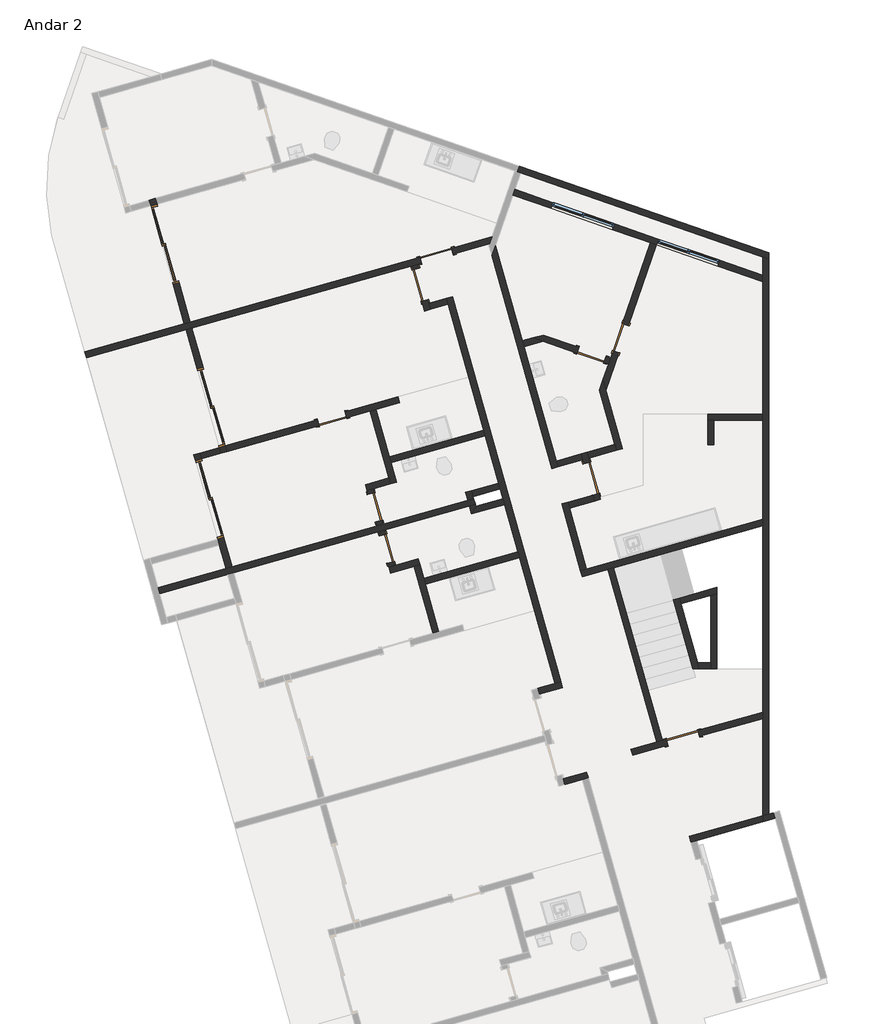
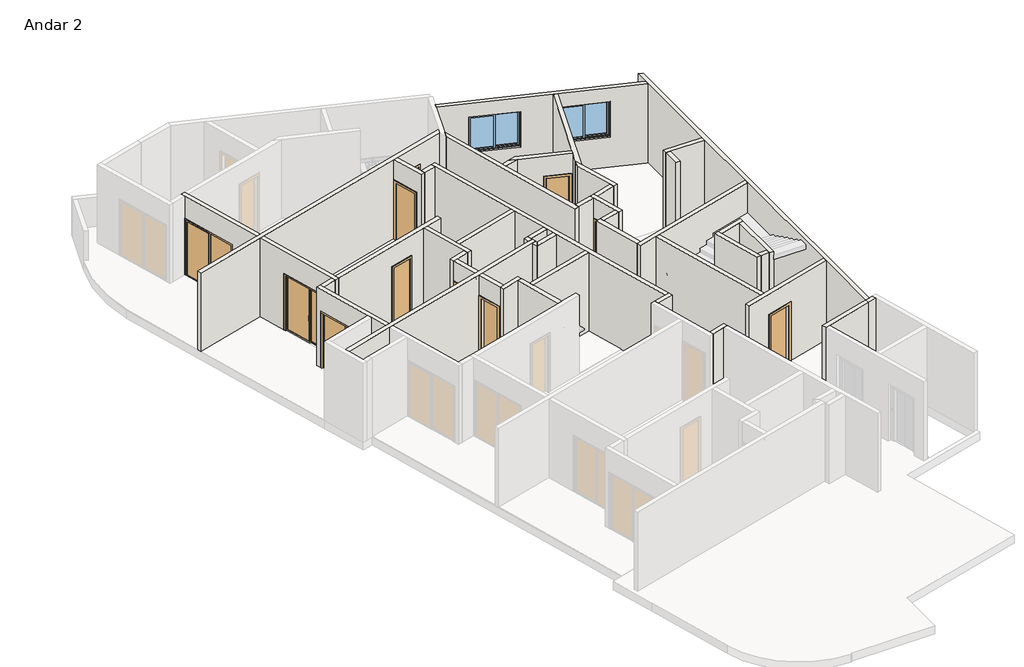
# One storey, part 2 of 3: 48 walls, 12 doors, 2 windows.
"""IFC4 building model written with IfcOpenShell, lengths in millimetres."""

from ifc_helpers import new_model, si_unit, frame, origin, place, context, project, spatial, polyline, outline, extrude, faceted_brep, transform, mapped, element, save
from components import p2_80cm_9d4be4ef, p2_80cm_083652d6, p3_70cm_ef4d15e3, p3_70cm_0a698c7c, p4_correr_200cm_eaaa0877, jx_160cm_e9e36a0c

model = new_model("IFC4")

# Units and contexts
model_context = context("Model", 3, world=origin())
ifc_project = project(units=[si_unit("LENGTHUNIT", "METRE", prefix="MILLI")], contexts=[model_context])

# Site, building, storey
site = spatial("IfcSite", under=ifc_project)
building = spatial("IfcBuilding", under=site)
storey = spatial("IfcBuildingStorey", under=building, Name="Andar 2", Elevation=56550.0)

# Doors
placement = place(None, origin())
p2_80cm_shape = p2_80cm_9d4be4ef(model_context)
element("IfcDoor", 1, ObjectType="M_Folha única1 : P2 - 80CM", at=placement, inside=storey, context=model_context, shape_type="MappedRepresentation", body=[
    mapped(p2_80cm_shape, transform((-83145.1128896, 30941.0402894, 56550.0), x_axis=(-0.9623628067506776, -0.2717679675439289, 0.0), y_axis=(0.2717679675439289, -0.9623628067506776, 0.0), z_axis=(0.0, 0.0, 1.0))),
])
element("IfcDoor", 2, ObjectType="M_Folha única1 : P2 - 80CM", at=placement, inside=storey, context=model_context, shape_type="MappedRepresentation", body=[
    mapped(p2_80cm_shape, transform((-79349.4097406, 25479.1041247, 56550.0), x_axis=(-0.27176796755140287, 0.962362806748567, 0.0), y_axis=(-0.962362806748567, -0.27176796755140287, 0.0), z_axis=(0.0, 0.0, 1.0))),
])
p2_80cm_2_shape = p2_80cm_083652d6(model_context)
element("IfcDoor", 3, ObjectType="M_Folha única1 : P2 - 80CM", at=placement, inside=storey, context=model_context, shape_type="MappedRepresentation", body=[
    mapped(p2_80cm_2_shape, transform((-83542.2049222, 30231.4150941, 56550.0), x_axis=(-0.2717679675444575, 0.9623628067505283, 0.0), y_axis=(-0.9623628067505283, -0.2717679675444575, 0.0), z_axis=(0.0, 0.0, 1.0))),
])
p3_70cm_shape = p3_70cm_ef4d15e3(model_context)
element("IfcDoor", 4, ObjectType="M_Folha única1 : P3 - 70CM", at=placement, inside=storey, context=model_context, shape_type="MappedRepresentation", body=[
    mapped(p3_70cm_shape, transform((-84650.97864, 24774.7108835, 56550.0), x_axis=(0.2717679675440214, -0.9623628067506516, 0.0), y_axis=(0.9623628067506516, 0.2717679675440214, 0.0), z_axis=(0.0, 0.0, 1.0))),
])
p3_70cm_2_shape = p3_70cm_0a698c7c(model_context)
element("IfcDoor", 5, ObjectType="M_Folha única1 : P3 - 70CM", at=placement, inside=storey, context=model_context, shape_type="MappedRepresentation", body=[
    mapped(p3_70cm_2_shape, transform((-84365.6222741, 23764.2299364, 56550.0), x_axis=(-0.2717679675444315, 0.9623628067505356, 0.0), y_axis=(-0.9623628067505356, -0.2717679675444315, 0.0), z_axis=(0.0, 0.0, 1.0))),
])
element("IfcDoor", 6, ObjectType="M_Folha única1 : P3 - 70CM", at=placement, inside=storey, context=model_context, shape_type="MappedRepresentation", body=[
    mapped(p3_70cm_2_shape, transform((-85705.4317558, 26944.8211633, 56550.0), x_axis=(0.9623628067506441, 0.2717679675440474, 0.0), y_axis=(-0.2717679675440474, 0.9623628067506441, 0.0), z_axis=(0.0, 0.0, 1.0))),
])
element("IfcDoor", 7, ObjectType="M_Folha única1 : P3 - 70CM", at=placement, inside=storey, context=model_context, shape_type="MappedRepresentation", body=[
    mapped(p3_70cm_2_shape, transform((-79346.1223746, 28509.6973665, 56550.0), x_axis=(0.9449109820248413, -0.32732741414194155, 0.0), y_axis=(0.32732741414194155, 0.9449109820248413, 0.0), z_axis=(0.0, 0.0, 1.0))),
])
element("IfcDoor", 8, ObjectType="M_Folha única1 : P3 - 70CM", at=placement, inside=storey, context=model_context, shape_type="MappedRepresentation", body=[
    mapped(p3_70cm_2_shape, transform((-78626.5662556, 28921.8732895, 56550.0), x_axis=(-0.32732741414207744, -0.9449109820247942, 0.0), y_axis=(0.9449109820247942, -0.32732741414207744, 0.0), z_axis=(0.0, 0.0, 1.0))),
])
p4_correr_200cm_shape = p4_correr_200cm_eaaa0877(model_context)
element("IfcDoor", 9, ObjectType="Porta de correr dupla envidraçada sem revestimento : P4 - CORRER - 200CM", at=placement, inside=storey, context=model_context, shape_type="MappedRepresentation", body=[
    mapped(p4_correr_200cm_shape, transform((-89799.7974026, 31217.9316171, 56550.0), x_axis=(0.27176796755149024, -0.9623628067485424, 0.0), y_axis=(0.9623628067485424, 0.27176796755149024, 0.0), z_axis=(0.0, 0.0, 1.0))),
])
element("IfcDoor", 10, ObjectType="Porta de correr dupla envidraçada sem revestimento : P4 - CORRER - 200CM", at=placement, inside=storey, context=model_context, shape_type="MappedRepresentation", body=[
    mapped(p4_correr_200cm_shape, transform((-88671.9603372, 27224.125969, 56550.0), x_axis=(-0.27176796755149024, 0.9623628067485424, 0.0), y_axis=(-0.9623628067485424, -0.27176796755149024, 0.0), z_axis=(0.0, 0.0, 1.0))),
])
element("IfcDoor", 11, ObjectType="Porta de correr dupla envidraçada sem revestimento : P4 - CORRER - 200CM", at=placement, inside=storey, context=model_context, shape_type="MappedRepresentation", body=[
    mapped(p4_correr_200cm_shape, transform((-88709.3738038, 24979.4758572, 56550.0), x_axis=(-0.2717679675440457, 0.9623628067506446, 0.0), y_axis=(-0.9623628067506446, -0.2717679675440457, 0.0), z_axis=(0.0, 0.0, 1.0))),
])
element("IfcDoor", 12, ObjectType="M_Folha única1 : PCF1 - 80CM", at=placement, inside=storey, context=model_context, shape_type="MappedRepresentation", body=[
    mapped(p2_80cm_shape, transform((-77103.5502958, 19127.1105693, 56550.0), x_axis=(-0.9623628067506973, -0.2717679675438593, 0.0), y_axis=(0.2717679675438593, -0.9623628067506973, 0.0), z_axis=(0.0, 0.0, 1.0))),
])

# Walls
element("IfcWall", 13, ObjectType="Básica .15 -  Interna", at=placement, inside=storey, context=model_context, shape_type="Brep", body=[
    faceted_brep([(-82901.0804648, 29892.9118737, 56550.0), (-82860.3152697, 29748.5574527, 56550.0), (-81990.6577736, 26668.9964711, 56550.0), (-81949.8925784, 26524.6420501, 56550.0), (-81623.7710174, 25369.806682, 56550.0), (-81583.0058223, 25225.452261, 56550.0), (-81515.0638304, 24984.8615593, 56550.0), (-81474.2986352, 24840.5071383, 56550.0), (-81148.1770742, 23685.6717702, 56550.0), (-81107.4118791, 23541.3173492, 56550.0), (-80237.7543829, 20461.7563676, 56550.0), (-80237.7543829, 20461.7563676, 59450.0), (-81107.4118791, 23541.3173492, 59450.0), (-81148.1770742, 23685.6717702, 59450.0), (-81474.2986352, 24840.5071383, 59450.0), (-81515.0638304, 24984.8615593, 59450.0), (-81583.0058223, 25225.452261, 59450.0), (-81623.7710174, 25369.806682, 59450.0), (-81949.8925784, 26524.6420501, 59450.0), (-81990.6577736, 26668.9964711, 59450.0), (-82860.3152697, 29748.5574527, 59450.0), (-82901.0804648, 29892.9118737, 59450.0), (-82756.7260438, 29933.6770689, 56550.0), (-82756.7260438, 29933.6770689, 59450.0), (-80093.3999619, 20502.5215627, 59450.0), (-80093.3999619, 20502.5215627, 56550.0)], [[[0, 1, 2, 3, 4, 5, 6, 7, 8, 9, 10, 11, 12, 13, 14, 15, 16, 17, 18, 19, 20, 21]], [[22, 23, 24, 25]], [[10, 9, 8, 7, 6, 5, 4, 3, 2, 1, 0, 22, 25]], [[21, 20, 19, 18, 17, 16, 15, 14, 13, 12, 11, 24, 23]], [[0, 21, 23, 22]], [[11, 10, 25, 24]]]),
])
element("IfcWall", 14, ObjectType="Básica .15 -  Interna", at=placement, inside=storey, context=model_context, shape_type="Brep", body=[
    faceted_brep([(-83750.2661164, 30692.2138999, 56550.0), (-83723.0893197, 30595.9776193, 56550.0), (-83723.0893197, 30595.9776193, 58650.0), (-83505.6749457, 29826.0873739, 58650.0), (-83505.6749457, 29826.0873739, 56550.0), (-83437.7329538, 29585.4966722, 56550.0), (-83437.7329538, 29585.4966722, 59450.0), (-83750.2661164, 30692.2138999, 59450.0), (-83578.7348987, 30636.7428144, 58650.0), (-83578.7348987, 30636.7428144, 56550.0), (-83605.9116954, 30732.9790951, 56550.0), (-83605.9116954, 30732.9790951, 59450.0), (-83334.1437279, 29770.6162883, 59450.0), (-83293.3785328, 29626.2618673, 59450.0), (-83293.3785328, 29626.2618673, 56550.0), (-83334.1437279, 29770.6162883, 56550.0), (-83361.3205246, 29866.852569, 56550.0), (-83361.3205246, 29866.852569, 58650.0)], [[[0, 1, 2, 3, 4, 5, 6, 7]], [[8, 9, 10, 11, 12, 13, 14, 15, 16, 17]], [[10, 9, 1, 0]], [[16, 15, 14, 5, 4]], [[7, 6, 13, 12, 11]], [[6, 5, 14, 13]], [[0, 7, 11, 10]], [[2, 1, 9, 8]], [[3, 2, 8, 17]], [[4, 3, 17, 16]]]),
])
element("IfcWall", 15, ObjectType="Básica .15 -  Interna", at=placement, inside=storey, context=model_context, shape_type="SweptSolid", body=[
    extrude(outline(polyline([(-82860.3152697, 29748.5574527), (-83293.3785328, 29626.2618673), (-83334.1437279, 29770.6162883), (-82901.0804648, 29892.9118737), (-82860.3152697, 29748.5574527)])), frame((0.0, 0.0, 56550.0), z_axis=(0.0, 0.0, 1.0), x_axis=(1.0, 0.0, 0.0)), (0.0, 0.0, 1.0), 2900.0),
])
element("IfcWall", 16, ObjectType="Básica .15 -  Interna", at=placement, inside=storey, context=model_context, shape_type="Brep", body=[
    faceted_brep([(-80093.3999619, 20502.5215627, 56550.0), (-80237.7543829, 20461.7563676, 56550.0), (-80670.817646, 20339.4607822, 56550.0), (-80670.817646, 20339.4607822, 59450.0), (-80237.7543829, 20461.7563676, 59450.0), (-80093.3999619, 20502.5215627, 59450.0), (-80052.6347668, 20358.1671417, 56550.0), (-80052.6347668, 20358.1671417, 59450.0), (-80630.0524508, 20195.1063612, 59450.0), (-80630.0524508, 20195.1063612, 56550.0)], [[[0, 1, 2, 3, 4, 5]], [[6, 7, 8, 9]], [[2, 1, 0, 6, 9]], [[5, 4, 3, 8, 7]], [[3, 2, 9, 8]], [[0, 5, 7, 6]]]),
])
element("IfcWall", 17, ObjectType="Básica .15 -  Interna", at=placement, inside=storey, context=model_context, shape_type="Brep", body=[
    faceted_brep([(-80004.9861255, 17981.6719056, 56550.0), (-79571.9228624, 18103.967491, 56550.0), (-79427.5684414, 18144.7326862, 56550.0), (-79427.5684414, 18144.7326862, 59450.0), (-79571.9228624, 18103.967491, 59450.0), (-80004.9861255, 17981.6719056, 59450.0), (-80045.7513206, 18126.0263266, 56550.0), (-80045.7513206, 18126.0263266, 59450.0), (-79468.3336366, 18289.0871072, 59450.0), (-79468.3336366, 18289.0871072, 56550.0)], [[[0, 1, 2, 3, 4, 5]], [[6, 7, 8, 9]], [[2, 1, 0, 6, 9]], [[5, 4, 3, 8, 7]], [[3, 2, 9, 8]], [[0, 5, 7, 6]]]),
])
element("IfcWall", 18, ObjectType="Básica .15 -  Interna", at=placement, inside=storey, context=model_context, shape_type="Brep", body=[
    faceted_brep([(-88305.9570711, 23274.9583478, 59450.0), (-88469.0178517, 23852.3760319, 59450.0), (-88509.7830468, 23996.7304529, 59450.0), (-89094.084177, 26065.8104874, 59450.0), (-89094.084177, 26065.8104874, 56550.0), (-89053.3189819, 25921.4560664, 56550.0), (-89053.3189819, 25921.4560664, 58650.0), (-88509.7830468, 23996.7304529, 58650.0), (-88509.7830468, 23996.7304529, 56550.0), (-88469.0178517, 23852.3760319, 56550.0), (-88305.9570711, 23274.9583478, 56550.0), (-88949.729756, 26106.5756825, 59450.0), (-88908.9645609, 25962.2212615, 59450.0), (-88161.6026501, 23315.723543, 59450.0), (-88161.6026501, 23315.723543, 56550.0), (-88365.4286258, 24037.495648, 56550.0), (-88365.4286258, 24037.495648, 58650.0), (-88908.9645609, 25962.2212615, 58650.0), (-88908.9645609, 25962.2212615, 56550.0), (-88949.729756, 26106.5756825, 56550.0)], [[[0, 1, 2, 3, 4, 5, 6, 7, 8, 9, 10]], [[11, 12, 13, 14, 15, 16, 17, 18, 19]], [[4, 19, 18, 5]], [[14, 10, 9, 8, 15]], [[3, 2, 1, 0, 13, 12, 11]], [[4, 3, 11, 19]], [[0, 10, 14, 13]], [[17, 6, 5, 18]], [[6, 17, 16, 7]], [[7, 16, 15, 8]]]),
])
element("IfcWall", 19, ObjectType="Básica .15 -  Interna", at=placement, inside=storey, context=model_context, shape_type="Brep", body=[
    faceted_brep([(-89143.3190618, 29169.2341801, 59450.0), (-88328.0151592, 26282.1457598, 59450.0), (-88287.249964, 26137.7913388, 59450.0), (-88287.249964, 26137.7913388, 56550.0), (-88328.0151592, 26282.1457598, 56550.0), (-88328.0151592, 26282.1457598, 58650.0), (-88871.5510943, 28206.8713733, 58650.0), (-88871.5510943, 28206.8713733, 56550.0), (-89143.3190618, 29169.2341801, 56550.0), (-88431.604385, 26097.0261437, 59450.0), (-88472.3695802, 26241.3805647, 59450.0), (-89287.6734828, 29128.468985, 59450.0), (-89287.6734828, 29128.468985, 56550.0), (-89015.9055153, 28166.1061782, 56550.0), (-89015.9055153, 28166.1061782, 58650.0), (-88472.3695802, 26241.3805647, 58650.0), (-88472.3695802, 26241.3805647, 56550.0), (-88431.604385, 26097.0261437, 56550.0)], [[[0, 1, 2, 3, 4, 5, 6, 7, 8]], [[9, 10, 11, 12, 13, 14, 15, 16, 17]], [[3, 17, 16, 4]], [[12, 8, 7, 13]], [[2, 1, 0, 11, 10, 9]], [[3, 2, 9, 17]], [[0, 8, 12, 11]], [[6, 14, 13, 7]], [[14, 6, 5, 15]], [[15, 5, 4, 16]]]),
])
element("IfcWall", 20, ObjectType="Básica .15 -  Interna", at=placement, inside=storey, context=model_context, shape_type="Brep", body=[
    faceted_brep([(-76904.7538909, 16570.3643175, 56550.0), (-76760.3994699, 16611.1295126, 56550.0), (-75147.8282189, 17066.5141226, 56550.0), (-75147.8282189, 17066.5141226, 59450.0), (-76760.3994699, 16611.1295126, 59450.0), (-76904.7538909, 16570.3643175, 59450.0), (-76945.5190861, 16714.7187385, 56550.0), (-76945.5190861, 16714.7187385, 59450.0), (-75147.8282189, 17222.3804954, 59450.0), (-75147.8282189, 17222.3804954, 56550.0)], [[[0, 1, 2, 3, 4, 5]], [[6, 7, 8, 9]], [[2, 1, 0, 6, 9]], [[5, 4, 3, 8, 7]], [[0, 5, 7, 6]], [[3, 2, 9, 8]]]),
])
element("IfcWall", 21, ObjectType="Básica .15 -  Interna", at=placement, inside=storey, context=model_context, shape_type="Brep", body=[
    faceted_brep([(-79570.9048554, 23078.5590693, 56550.0), (-78948.2127609, 23254.4051886, 56550.0), (-78803.8582924, 23295.1703972, 56550.0), (-75147.8282189, 24327.6207947, 56550.0), (-75147.8282189, 24327.6207947, 59450.0), (-78803.8582924, 23295.1703972, 59450.0), (-78948.2127609, 23254.4051886, 59450.0), (-79570.9048554, 23078.5590693, 59450.0), (-79611.6700506, 23222.9134903, 56550.0), (-79611.6700506, 23222.9134903, 59450.0), (-79467.3156296, 23263.6786855, 59450.0), (-75147.8282189, 24483.4871675, 59450.0), (-75147.8282189, 24483.4871675, 56550.0), (-79467.3156296, 23263.6786855, 56550.0)], [[[0, 1, 2, 3, 4, 5, 6, 7]], [[8, 9, 10, 11, 12, 13]], [[3, 2, 1, 0, 8, 13, 12]], [[7, 6, 5, 4, 11, 10, 9]], [[0, 7, 9, 8]], [[4, 3, 12, 11]]]),
])
element("IfcWall", 22, ObjectType="Básica .15 -  Interna", at=placement, inside=storey, context=model_context, shape_type="SweptSolid", body=[
    extrude(outline(polyline([(-77749.4687652, 19022.6385875), (-78948.2127609, 23254.4051886), (-78803.8582924, 23295.1703972), (-77605.1142967, 19063.4037961), (-77749.4687652, 19022.6385875)])), frame((0.0, 0.0, 56550.0), z_axis=(0.0, 0.0, 1.0), x_axis=(1.0, 0.0, 0.0)), (0.0, 0.0, 1.0), 2900.0),
])
element("IfcWall", 23, ObjectType="Básica .15 -  Interna", at=placement, inside=storey, context=model_context, shape_type="Brep", body=[
    faceted_brep([(-77508.878016, 19090.5805928, 58650.0), (-77508.878016, 19090.5805928, 56550.0), (-77605.1142967, 19063.4037961, 56550.0), (-77749.4687652, 19022.6385875, 56550.0), (-78375.5945972, 18845.8227925, 56550.0), (-78375.5945972, 18845.8227925, 59450.0), (-77749.4687652, 19022.6385875, 59450.0), (-77605.1142967, 19063.4037961, 59450.0), (-75147.8282189, 19757.3329862, 59450.0), (-75147.8282189, 19757.3329862, 56550.0), (-76738.9877706, 19307.9949669, 56550.0), (-76738.9877706, 19307.9949669, 58650.0), (-78334.829402, 18701.4683715, 56550.0), (-77468.1128209, 18946.2261718, 56550.0), (-77468.1128209, 18946.2261718, 58650.0), (-76698.2225755, 19163.6405459, 58650.0), (-76698.2225755, 19163.6405459, 56550.0), (-75147.8282189, 19601.4666134, 56550.0), (-75147.8282189, 19601.4666134, 59450.0), (-78334.829402, 18701.4683715, 59450.0)], [[[0, 1, 2, 3, 4, 5, 6, 7, 8, 9, 10, 11]], [[12, 13, 14, 15, 16, 17, 18, 19]], [[10, 9, 17, 16]], [[4, 3, 2, 1, 13, 12]], [[5, 4, 12, 19]], [[8, 7, 6, 5, 19, 18]], [[14, 13, 1, 0]], [[15, 14, 0, 11]], [[16, 15, 11, 10]], [[9, 8, 18, 17]]]),
])
element("IfcWall", 24, ObjectType="Básica .15 - Externa", at=placement, inside=storey, context=model_context, shape_type="Brep", body=[
    faceted_brep([(-75147.8282189, 30909.9128092, 59450.0), (-75147.8282189, 30909.9128092, 56550.0), (-75147.8282189, 30461.6117638, 56550.0), (-75147.8282189, 30302.8666514, 56550.0), (-75147.8282189, 27060.8243598, 56550.0), (-75147.8282189, 26910.8243598, 56550.0), (-75147.8282189, 24483.4871675, 56550.0), (-75147.8282189, 24327.6207947, 56550.0), (-75147.8282189, 19757.3329862, 56550.0), (-75147.8282189, 19601.4666134, 56550.0), (-75147.8282189, 18677.5140353, 56550.0), (-75147.8282189, 17222.3804954, 56550.0), (-75147.8282189, 17222.3804954, 59450.0), (-75147.8282189, 19601.4666134, 59450.0), (-75147.8282189, 19757.3329862, 59450.0), (-75147.8282189, 24327.6207947, 59450.0), (-75147.8282189, 24483.4871675, 59450.0), (-75147.8282189, 26910.8243598, 59450.0), (-75147.8282189, 27060.8243598, 59450.0), (-75147.8282189, 30302.8666514, 59450.0), (-75147.8282189, 30461.6117638, 59450.0), (-74997.8282189, 30857.9511821, 56550.0), (-74997.8282189, 30857.9511821, 57850.0), (-74997.8282189, 30857.9511821, 59150.0), (-74997.8282189, 30857.9511821, 59450.0), (-74997.8282189, 17264.7399828, 59450.0), (-74997.8282189, 17264.7399828, 56550.0), (-74997.8282189, 18677.5140353, 56550.0)], [[[0, 1, 2, 3, 4, 5, 6, 7, 8, 9, 10, 11, 12, 13, 14, 15, 16, 17, 18, 19, 20]], [[21, 22, 23, 24, 25, 26, 27]], [[11, 10, 9, 8, 7, 6, 5, 4, 3, 2, 1, 21, 27, 26]], [[0, 20, 19, 18, 17, 16, 15, 14, 13, 12, 25, 24]], [[12, 11, 26, 25]], [[0, 24, 23, 22, 21, 1]]]),
])
element("IfcWall", 25, ObjectType="Básica .15 -  Interna", at=placement, inside=storey, context=model_context, shape_type="Brep", body=[
    faceted_brep([(-80073.6755954, 24858.9302618, 56550.0), (-79611.6700506, 23222.9134903, 56550.0), (-79611.6700506, 23222.9134903, 59450.0), (-80073.6755954, 24858.9302618, 59450.0), (-79929.3211744, 24899.695457, 56550.0), (-79929.3211744, 24899.695457, 59450.0), (-79888.5559793, 24755.3410359, 59450.0), (-79467.3156296, 23263.6786855, 59450.0), (-79467.3156296, 23263.6786855, 56550.0), (-79888.5559793, 24755.3410359, 56550.0)], [[[0, 1, 2, 3]], [[4, 5, 6, 7, 8, 9]], [[1, 0, 4, 9, 8]], [[3, 2, 7, 6, 5]], [[0, 3, 5, 4]], [[2, 1, 8, 7]]]),
])
element("IfcWall", 26, ObjectType="Básica .15 -  Interna", at=placement, inside=storey, context=model_context, shape_type="Brep", body=[
    faceted_brep([(-79888.5559793, 24755.3410359, 56550.0), (-79272.1145689, 24929.4219834, 56550.0), (-79272.1145689, 24929.4219834, 59450.0), (-79888.5559793, 24755.3410359, 59450.0), (-79929.3211744, 24899.695457, 56550.0), (-79929.3211744, 24899.695457, 59450.0), (-79312.8797641, 25073.7764044, 59450.0), (-79312.8797641, 25073.7764044, 58650.0), (-79312.8797641, 25073.7764044, 56550.0)], [[[0, 1, 2, 3]], [[4, 5, 6, 7, 8]], [[1, 0, 4, 8]], [[3, 2, 6, 5]], [[0, 3, 5, 4]], [[2, 1, 8, 7, 6]]]),
])
element("IfcWall", 27, ObjectType="Básica .15 -  Interna", at=placement, inside=storey, context=model_context, shape_type="Brep", body=[
    faceted_brep([(-79598.23613, 26084.2573515, 56550.0), (-79557.4709349, 25939.9029305, 56550.0), (-79530.2941381, 25843.6666498, 56550.0), (-79530.2941381, 25843.6666498, 58650.0), (-79312.8797641, 25073.7764044, 58650.0), (-79312.8797641, 25073.7764044, 56550.0), (-79272.1145689, 24929.4219834, 56550.0), (-79272.1145689, 24929.4219834, 59450.0), (-79312.8797641, 25073.7764044, 59450.0), (-79557.4709349, 25939.9029305, 59450.0), (-79598.23613, 26084.2573515, 59450.0), (-79385.9397171, 25884.4318449, 58650.0), (-79385.9397171, 25884.4318449, 56550.0), (-79413.1165138, 25980.6681256, 56550.0), (-79453.881709, 26125.0225466, 56550.0), (-79453.881709, 26125.0225466, 59450.0), (-79413.1165138, 25980.6681256, 59450.0), (-79127.7601479, 24970.1871785, 59450.0), (-79127.7601479, 24970.1871785, 56550.0), (-79168.5253431, 25114.5415995, 56550.0), (-79168.5253431, 25114.5415995, 58650.0)], [[[0, 1, 2, 3, 4, 5, 6, 7, 8, 9, 10]], [[11, 12, 13, 14, 15, 16, 17, 18, 19, 20]], [[19, 18, 6, 5]], [[14, 13, 12, 2, 1, 0]], [[10, 9, 8, 7, 17, 16, 15]], [[7, 6, 18, 17]], [[0, 10, 15, 14]], [[3, 2, 12, 11]], [[4, 3, 11, 20]], [[5, 4, 20, 19]]]),
])
element("IfcWall", 28, ObjectType="Básica .15 -  Interna", at=placement, inside=storey, context=model_context, shape_type="Brep", body=[
    faceted_brep([(-81789.2550074, 30934.0017027, 56550.0), (-80318.2667662, 25725.0567879, 56550.0), (-80318.2667662, 25725.0567879, 59450.0), (-81789.2550074, 30934.0017027, 59450.0), (-81703.3880158, 31181.8778654, 56550.0), (-81703.3880158, 31181.8778654, 59450.0), (-81045.1503443, 28850.9797144, 59450.0), (-81004.3851492, 28706.6252933, 59450.0), (-80214.6775403, 25910.176404, 59450.0), (-80173.9123452, 25765.821983, 59450.0), (-80173.9123452, 25765.821983, 56550.0), (-80214.6775403, 25910.176404, 56550.0), (-81004.3851492, 28706.6252933, 56550.0), (-81045.1503443, 28850.9797144, 56550.0)], [[[0, 1, 2, 3]], [[4, 5, 6, 7, 8, 9, 10, 11, 12, 13]], [[1, 0, 4, 13, 12, 11, 10]], [[3, 2, 9, 8, 7, 6, 5]], [[0, 3, 5, 4]], [[2, 1, 10, 9]]]),
])
element("IfcWall", 29, ObjectType="Básica .15 -  Interna", at=placement, inside=storey, context=model_context, shape_type="Brep", body=[
    faceted_brep([(-88908.9645609, 25962.2212615, 56550.0), (-88431.604385, 26097.0261437, 56550.0), (-88431.604385, 26097.0261437, 59450.0), (-88908.9645609, 25962.2212615, 59450.0), (-88908.9645609, 25962.2212615, 58650.0), (-88949.729756, 26106.5756825, 56550.0), (-88949.729756, 26106.5756825, 59450.0), (-88472.3695802, 26241.3805647, 59450.0), (-88472.3695802, 26241.3805647, 56550.0)], [[[0, 1, 2, 3, 4]], [[5, 6, 7, 8]], [[1, 0, 5, 8]], [[3, 2, 7, 6]], [[0, 4, 3, 6, 5]], [[2, 1, 8, 7]]]),
])
element("IfcWall", 30, ObjectType="Básica .15 -  Interna", at=placement, inside=storey, context=model_context, shape_type="SweptSolid", body=[
    extrude(outline(polyline([(-79557.4709349, 25939.9029305), (-80173.9123452, 25765.821983), (-80214.6775403, 25910.176404), (-79598.23613, 26084.2573515), (-79557.4709349, 25939.9029305)])), frame((0.0, 0.0, 56550.0), z_axis=(0.0, 0.0, 1.0), x_axis=(1.0, 0.0, 0.0)), (0.0, 0.0, 1.0), 2900.0),
])
element("IfcWall", 31, ObjectType="Básica .15 -  Interna", at=placement, inside=storey, context=model_context, shape_type="Brep", body=[
    faceted_brep([(-91725.2428613, 28440.1077234, 56550.0), (-89287.6734828, 29128.468985, 56550.0), (-89143.3190618, 29169.2341801, 56550.0), (-83750.2661164, 30692.2138999, 56550.0), (-83605.9116954, 30732.9790951, 56550.0), (-83509.6754148, 30760.1558918, 56550.0), (-83509.6754148, 30760.1558918, 58650.0), (-82739.7851694, 30977.5702659, 58650.0), (-82739.7851694, 30977.5702659, 56550.0), (-81845.4155775, 31230.1371819, 56550.0), (-81845.4155775, 31230.1371819, 59450.0), (-83605.9116954, 30732.9790951, 59450.0), (-83750.2661164, 30692.2138999, 59450.0), (-89143.3190618, 29169.2341801, 59450.0), (-89287.6734828, 29128.468985, 59450.0), (-91725.2428613, 28440.1077234, 59450.0), (-83550.4406099, 30904.5103128, 58650.0), (-83550.4406099, 30904.5103128, 56550.0), (-89184.084257, 29313.5886011, 56550.0), (-89328.438678, 29272.823406, 56550.0), (-91766.0080564, 28584.4621444, 56550.0), (-91766.0080564, 28584.4621444, 59450.0), (-89328.438678, 29272.823406, 59450.0), (-89184.084257, 29313.5886011, 59450.0), (-81785.5670817, 31402.9045654, 59450.0), (-81785.5670817, 31402.9045654, 56550.0), (-82780.5503645, 31121.9246869, 56550.0), (-82780.5503645, 31121.9246869, 58650.0)], [[[0, 1, 2, 3, 4, 5, 6, 7, 8, 9, 10, 11, 12, 13, 14, 15]], [[16, 17, 18, 19, 20, 21, 22, 23, 24, 25, 26, 27]], [[26, 25, 9, 8]], [[20, 19, 18, 17, 5, 4, 3, 2, 1, 0]], [[15, 14, 13, 12, 11, 10, 24, 23, 22, 21]], [[0, 15, 21, 20]], [[10, 9, 25, 24]], [[6, 5, 17, 16]], [[7, 6, 16, 27]], [[8, 7, 27, 26]]]),
])
element("IfcWall", 32, ObjectType="Básica .15 -  Interna", at=placement, inside=storey, context=model_context, shape_type="Brep", body=[
    faceted_brep([(-90040.1533547, 32345.0314424, 59450.0), (-89999.3881596, 32200.6770214, 59450.0), (-89184.084257, 29313.5886011, 59450.0), (-89184.084257, 29313.5886011, 56550.0), (-89455.8522245, 30275.9514079, 56550.0), (-89455.8522245, 30275.9514079, 58650.0), (-89999.3881596, 32200.6770214, 58650.0), (-89999.3881596, 32200.6770214, 56550.0), (-90040.1533547, 32345.0314424, 56550.0), (-89328.438678, 29272.823406, 59450.0), (-90143.7425806, 32159.9118263, 59450.0), (-90184.5077758, 32304.2662473, 59450.0), (-90184.5077758, 32304.2662473, 56550.0), (-90143.7425806, 32159.9118262, 56550.0), (-90143.7425806, 32159.9118262, 58650.0), (-89600.2066455, 30235.1862128, 58650.0), (-89600.2066455, 30235.1862128, 56550.0), (-89328.438678, 29272.823406, 56550.0)], [[[0, 1, 2, 3, 4, 5, 6, 7, 8]], [[9, 10, 11, 12, 13, 14, 15, 16, 17]], [[12, 8, 7, 13]], [[3, 17, 16, 4]], [[2, 1, 0, 11, 10, 9]], [[0, 8, 12, 11]], [[3, 2, 9, 17]], [[15, 5, 4, 16]], [[5, 15, 14, 6]], [[6, 14, 13, 7]]]),
])
element("IfcWall", 33, ObjectType="Básica .15 -  Interna", at=placement, inside=storey, context=model_context, shape_type="Brep", body=[
    faceted_brep([(-89936.6922366, 22658.5779377, 56550.0), (-88265.191876, 23130.6039268, 56550.0), (-88120.837455, 23171.369122, 56550.0), (-84560.09507, 24176.9106019, 56550.0), (-84415.740649, 24217.675797, 56550.0), (-82192.6825654, 24845.459802, 56550.0), (-82192.6825654, 24845.459802, 59450.0), (-84415.740649, 24217.675797, 59450.0), (-84560.09507, 24176.9106019, 59450.0), (-88120.837455, 23171.369122, 59450.0), (-88265.191876, 23130.6039268, 59450.0), (-89936.6922366, 22658.5779377, 59450.0), (-89977.4574318, 22802.9323587, 56550.0), (-89977.4574318, 22802.9323587, 59450.0), (-88305.9570711, 23274.9583478, 59450.0), (-88161.6026501, 23315.723543, 59450.0), (-84600.8602651, 24321.2650229, 59450.0), (-84456.5058441, 24362.030218, 59450.0), (-82233.4477605, 24989.814223, 59450.0), (-82233.4477605, 24989.814223, 56550.0), (-84456.5058441, 24362.030218, 56550.0), (-84600.8602651, 24321.2650229, 56550.0), (-88161.6026501, 23315.723543, 56550.0), (-88305.9570711, 23274.9583478, 56550.0)], [[[0, 1, 2, 3, 4, 5, 6, 7, 8, 9, 10, 11]], [[12, 13, 14, 15, 16, 17, 18, 19, 20, 21, 22, 23]], [[5, 4, 3, 2, 1, 0, 12, 23, 22, 21, 20, 19]], [[6, 5, 19, 18]], [[11, 10, 9, 8, 7, 6, 18, 17, 16, 15, 14, 13]], [[0, 11, 13, 12]]]),
])
element("IfcWall", 34, ObjectType="Básica .15 -  Interna", at=placement, inside=storey, context=model_context, shape_type="Brep", body=[
    faceted_brep([(-81272.8781344, 32424.6503839, 56550.0), (-77897.5766162, 31255.4093243, 56550.0), (-77755.8399689, 31206.3102121, 56550.0), (-75147.8282189, 30302.8666514, 56550.0), (-75147.8282189, 30302.8666514, 59450.0), (-77755.8399689, 31206.3102121, 59450.0), (-77897.5766162, 31255.4093243, 59450.0), (-81272.8781344, 32424.6503839, 59450.0), (-78829.2985897, 31578.1679228, 57650.0), (-80341.1561609, 32101.8917854, 57650.0), (-80341.1561609, 32101.8917854, 58950.0), (-78829.2985897, 31578.1679228, 58950.0), (-76243.9823976, 30682.5863495, 57650.0), (-77755.8399689, 31206.3102121, 57650.0), (-77755.8399689, 31206.3102121, 58950.0), (-76243.9823976, 30682.5863495, 58950.0), (-81223.7790223, 32566.3870312, 56550.0), (-81223.7790223, 32566.3870312, 59450.0), (-75147.8282189, 30461.6117638, 59450.0), (-75147.8282189, 30461.6117638, 56550.0), (-78780.1994776, 31719.9045701, 57650.0), (-78780.1994776, 31719.9045701, 58950.0), (-80292.0570488, 32243.6284327, 58950.0), (-80292.0570488, 32243.6284327, 57650.0), (-76194.8832855, 30824.3229968, 57650.0), (-76194.8832855, 30824.3229968, 58950.0), (-77706.7408568, 31348.0468595, 58950.0), (-77706.7408568, 31348.0468595, 57650.0)], [[[0, 1, 2, 3, 4, 5, 6, 7], [8, 9, 10, 11], [12, 13, 14, 15]], [[16, 17, 18, 19], [20, 21, 22, 23], [24, 25, 26, 27]], [[3, 2, 1, 0, 16, 19]], [[7, 6, 5, 4, 18, 17]], [[0, 7, 17, 16]], [[21, 20, 8, 11]], [[22, 21, 11, 10]], [[23, 22, 10, 9]], [[20, 23, 9, 8]], [[25, 24, 12, 15]], [[26, 25, 15, 14]], [[27, 26, 14, 13]], [[24, 27, 13, 12]], [[4, 3, 19, 18]]]),
])
element("IfcWall", 35, ObjectType="Básica .15 - Externa", at=placement, inside=storey, context=model_context, shape_type="Brep", body=[
    faceted_brep([(-81156.3583355, 32991.3328194, 57850.0), (-81156.3583355, 32991.3328194, 56550.0), (-81156.3583355, 32991.3328194, 56250.0), (-81085.1216301, 32966.655652, 56250.0), (-74997.8282189, 30857.9511821, 56250.0), (-74997.8282189, 30857.9511821, 56550.0), (-74997.8282189, 30857.9511821, 57850.0), (-81085.1216301, 32966.655652, 57850.0), (-81107.2592234, 33133.0694667, 56250.0), (-81107.2592234, 33133.0694667, 56550.0), (-81107.2592234, 33133.0694667, 57850.0), (-81036.022518, 33108.3922993, 57850.0), (-74997.8282189, 31016.6962944, 57850.0), (-74997.8282189, 31016.6962944, 56250.0), (-81036.022518, 33108.3922993, 56250.0)], [[[0, 1, 2, 3, 4, 5, 6, 7]], [[8, 9, 10, 11, 12, 13, 14]], [[4, 3, 2, 8, 14, 13]], [[0, 7, 6, 12, 11, 10]], [[0, 10, 9, 8, 2, 1]], [[4, 13, 12, 6, 5]]]),
])
element("IfcWall", 36, ObjectType="Básica .15 -  Interna", at=placement, inside=storey, context=model_context, shape_type="SweptSolid", body=[
    extrude(outline(polyline([(-82179.094167, 24797.3416617), (-81515.0638304, 24984.8615593), (-81474.2986352, 24840.5071383), (-82282.6833929, 24612.2220455), (-82179.094167, 24797.3416617)])), frame((0.0, 0.0, 56550.0), z_axis=(0.0, 0.0, 1.0), x_axis=(1.0, 0.0, 0.0)), (0.0, 0.0, 1.0), 2900.0),
])
element("IfcWall", 37, ObjectType="Básica .15 -  Interna", at=placement, inside=storey, context=model_context, shape_type="SweptSolid", body=[
    extrude(outline(polyline([(-82192.6825654, 24845.459802), (-82179.094167, 24797.3416617), (-82282.6833929, 24612.2220455), (-82337.0369864, 24804.6946069), (-82192.6825654, 24845.459802)])), frame((0.0, 0.0, 56550.0), z_axis=(0.0, 0.0, 1.0), x_axis=(1.0, 0.0, 0.0)), (0.0, 0.0, 1.0), 2900.0),
])
element("IfcWall", 38, ObjectType="Básica .15 -  Interna", at=placement, inside=storey, context=model_context, shape_type="Brep", body=[
    faceted_brep([(-83593.7317942, 23514.6100515, 56550.0), (-84171.1494782, 23351.5492709, 56550.0), (-84315.5038992, 23310.7840758, 56550.0), (-84315.5038992, 23310.7840758, 59450.0), (-84171.1494782, 23351.5492709, 59450.0), (-83593.7317942, 23514.6100515, 59450.0), (-83552.966599, 23370.2556304, 56550.0), (-83552.966599, 23370.2556304, 59450.0), (-83697.32102, 23329.4904353, 59450.0), (-84274.7387041, 23166.4296548, 59450.0), (-84274.7387041, 23166.4296548, 56550.0), (-83697.32102, 23329.4904353, 56550.0)], [[[0, 1, 2, 3, 4, 5]], [[6, 7, 8, 9, 10, 11]], [[2, 1, 0, 6, 11, 10]], [[5, 4, 3, 9, 8, 7]], [[0, 5, 7, 6]], [[3, 2, 10, 9]]]),
])
element("IfcWall", 39, ObjectType="Básica .15 -  Interna", at=placement, inside=storey, context=model_context, shape_type="Brep", body=[
    faceted_brep([(-83090.9610542, 21734.238859, 56550.0), (-83417.0826153, 22889.0742271, 56550.0), (-83457.8478104, 23033.4286481, 56550.0), (-83552.966599, 23370.2556304, 56550.0), (-83552.966599, 23370.2556304, 59450.0), (-83457.8478104, 23033.4286481, 59450.0), (-83417.0826153, 22889.0742271, 59450.0), (-83090.9610542, 21734.238859, 59450.0), (-83235.3154752, 21693.4736638, 56550.0), (-83235.3154752, 21693.4736638, 59450.0), (-83697.32102, 23329.4904353, 59450.0), (-83697.32102, 23329.4904353, 56550.0)], [[[0, 1, 2, 3, 4, 5, 6, 7]], [[8, 9, 10, 11]], [[3, 2, 1, 0, 8, 11]], [[7, 6, 5, 4, 10, 9]], [[0, 7, 9, 8]], [[4, 3, 11, 10]]]),
])
element("IfcWall", 40, ObjectType="Básica .15 -  Interna", at=placement, inside=storey, context=model_context, shape_type="SweptSolid", body=[
    extrude(outline(polyline([(-83457.8478104, 23033.4286481), (-81148.1770742, 23685.6717702), (-81107.4118791, 23541.3173492), (-83417.0826153, 22889.0742271), (-83457.8478104, 23033.4286481)])), frame((0.0, 0.0, 56550.0), z_axis=(0.0, 0.0, 1.0), x_axis=(1.0, 0.0, 0.0)), (0.0, 0.0, 1.0), 2900.0),
])
element("IfcWall", 41, ObjectType="Básica .15 -  Interna", at=placement, inside=storey, context=model_context, shape_type="SweptSolid", body=[
    extrude(outline(polyline([(150.0, 0.0), (250.0, 0.0), (250.0, -2100.0), (950.0, -2100.0), (950.0, 0.0), (1050.0, 0.0), (1050.0, -2900.0), (150.0, -2900.0), (150.0, 0.0)])), frame((-84600.8602651, 24321.2650229, 56550.0), z_axis=(0.9623628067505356, 0.2717679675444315, 0.0), x_axis=(0.2717679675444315, -0.9623628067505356, 0.0)), (0.0, 0.0, 1.0), 150.0),
])
element("IfcWall", 42, ObjectType="Básica .15 -  Interna", at=placement, inside=storey, context=model_context, shape_type="Brep", body=[
    faceted_brep([(-84770.8044918, 27130.823522, 56550.0), (-84308.798947, 25494.8067505, 56550.0), (-84268.0337519, 25350.4523295, 56550.0), (-84268.0337519, 25350.4523295, 59450.0), (-84308.798947, 25494.8067505, 59450.0), (-84770.8044918, 27130.823522, 59450.0), (-84626.4500708, 27171.5887171, 56550.0), (-84626.4500708, 27171.5887171, 59450.0), (-84300.3285098, 26016.753349, 59450.0), (-84259.5633146, 25872.398928, 59450.0), (-84123.6793309, 25391.2175246, 59450.0), (-84123.6793309, 25391.2175246, 56550.0), (-84259.5633146, 25872.398928, 56550.0), (-84300.3285098, 26016.753349, 56550.0)], [[[0, 1, 2, 3, 4, 5]], [[6, 7, 8, 9, 10, 11, 12, 13]], [[2, 1, 0, 6, 13, 12, 11]], [[5, 4, 3, 10, 9, 8, 7]], [[3, 2, 11, 10]], [[0, 5, 7, 6]]]),
])
element("IfcWall", 43, ObjectType="Básica .15 -  Interna", at=placement, inside=storey, context=model_context, shape_type="SweptSolid", body=[
    extrude(outline(polyline([(-84300.3285098, 26016.753349), (-81990.6577736, 26668.9964711), (-81949.8925784, 26524.6420501), (-84259.5633146, 25872.398928), (-84300.3285098, 26016.753349)])), frame((0.0, 0.0, 56550.0), z_axis=(0.0, 0.0, 1.0), x_axis=(1.0, 0.0, 0.0)), (0.0, 0.0, 1.0), 2900.0),
])
element("IfcWall", 44, ObjectType="Básica .15 -  Interna", at=placement, inside=storey, context=model_context, shape_type="Brep", body=[
    faceted_brep([(-84308.798947, 25494.8067505, 56550.0), (-84886.2166311, 25331.74597, 56550.0), (-84886.2166311, 25331.74597, 59450.0), (-84308.798947, 25494.8067505, 59450.0), (-84268.0337519, 25350.4523295, 56550.0), (-84268.0337519, 25350.4523295, 59450.0), (-84701.0970149, 25228.1567441, 59450.0), (-84845.4514359, 25187.391549, 59450.0), (-84845.4514359, 25187.391549, 56550.0), (-84701.0970149, 25228.1567441, 56550.0)], [[[0, 1, 2, 3]], [[4, 5, 6, 7, 8, 9]], [[1, 0, 4, 9, 8]], [[3, 2, 7, 6, 5]], [[2, 1, 8, 7]], [[0, 3, 5, 4]]]),
])
element("IfcWall", 45, ObjectType="Básica .15 -  Interna", at=placement, inside=storey, context=model_context, shape_type="SweptSolid", body=[
    extrude(outline(polyline([(800.0, -2100.0), (800.0, 0.0), (900.0, 0.0), (900.0, -2900.0), (0.0, -2900.0), (0.0, 0.0), (100.0, 0.0), (100.0, -2100.0), (800.0, -2100.0)])), frame((-84845.4514359, 25187.391549, 56550.0), z_axis=(0.9623628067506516, 0.2717679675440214, 0.0), x_axis=(0.2717679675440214, -0.9623628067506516, 0.0)), (0.0, 0.0, 1.0), 150.0),
])
element("IfcWall", 46, ObjectType="Básica .15 -  Interna", at=placement, inside=storey, context=model_context, shape_type="Brep", body=[
    faceted_brep([(-82432.1557751, 25141.5215893, 56550.0), (-82377.8021816, 24949.0490279, 56550.0), (-82377.8021816, 24949.0490279, 59450.0), (-82432.1557751, 25141.5215893, 59450.0), (-82287.801354, 25182.2867844, 56550.0), (-82287.801354, 25182.2867844, 59450.0), (-82247.0361589, 25037.9323634, 59450.0), (-82233.4477605, 24989.814223, 59450.0), (-82233.4477605, 24989.814223, 56550.0), (-82247.0361589, 25037.9323634, 56550.0)], [[[0, 1, 2, 3]], [[4, 5, 6, 7, 8, 9]], [[1, 0, 4, 9, 8]], [[2, 1, 8, 7]], [[3, 2, 7, 6, 5]], [[0, 3, 5, 4]]]),
])
element("IfcWall", 47, ObjectType="Básica .15 -  Interna", at=placement, inside=storey, context=model_context, shape_type="SweptSolid", body=[
    extrude(outline(polyline([(-81583.0058223, 25225.452261), (-82247.0361589, 25037.9323634), (-82287.801354, 25182.2867844), (-81623.7710174, 25369.806682), (-81583.0058223, 25225.452261)])), frame((0.0, 0.0, 56550.0), z_axis=(0.0, 0.0, 1.0), x_axis=(1.0, 0.0, 0.0)), (0.0, 0.0, 1.0), 2900.0),
])
element("IfcWall", 48, ObjectType="Básica .15 -  Interna", at=placement, inside=storey, context=model_context, shape_type="Brep", body=[
    faceted_brep([(-76493.6479314, 26910.8243598, 56550.0), (-76343.6479314, 26910.8243598, 56550.0), (-75147.8282189, 26910.8243598, 56550.0), (-75147.8282189, 26910.8243598, 59450.0), (-76343.6479314, 26910.8243598, 59450.0), (-76493.6479314, 26910.8243598, 59450.0), (-76493.6479314, 27060.8243598, 56550.0), (-76493.6479314, 27060.8243598, 59450.0), (-75147.8282189, 27060.8243598, 59450.0), (-75147.8282189, 27060.8243598, 56550.0)], [[[0, 1, 2, 3, 4, 5]], [[6, 7, 8, 9]], [[2, 1, 0, 6, 9]], [[5, 4, 3, 8, 7]], [[0, 5, 7, 6]], [[3, 2, 9, 8]]]),
])
element("IfcWall", 49, ObjectType="Básica .15 -  Interna", at=placement, inside=storey, context=model_context, shape_type="SweptSolid", body=[
    extrude(outline(polyline([(-76343.6479314, 26910.8243598), (-76343.6479314, 26310.8243598), (-76493.6479314, 26310.8243598), (-76493.6479314, 26910.8243598), (-76343.6479314, 26910.8243598)])), frame((0.0, 0.0, 56550.0), z_axis=(0.0, 0.0, 1.0), x_axis=(1.0, 0.0, 0.0)), (0.0, 0.0, 1.0), 2900.0),
])
element("IfcWall", 50, ObjectType="Básica .15 -  Interna", at=placement, inside=storey, context=model_context, shape_type="Brep", body=[
    faceted_brep([(-78877.464657, 28426.7218055, 56550.0), (-78990.8539749, 28466.0010952, 56550.0), (-78990.8539749, 28466.0010952, 58650.0), (-79652.2916623, 28695.1302851, 58650.0), (-79652.2916623, 28695.1302851, 56550.0), (-80525.6718652, 28997.6786614, 56550.0), (-80525.6718652, 28997.6786614, 59450.0), (-78877.464657, 28426.7218055, 59450.0), (-79039.953087, 28324.2644479, 58650.0), (-79039.953087, 28324.2644479, 56550.0), (-78926.5637691, 28284.9851582, 56550.0), (-78926.5637691, 28284.9851582, 59450.0), (-80530.2499593, 28840.5194505, 59450.0), (-80778.126122, 28926.3864421, 59450.0), (-80778.126122, 28926.3864421, 56550.0), (-80530.2499593, 28840.5194505, 56550.0), (-79701.3907744, 28553.3936378, 56550.0), (-79701.3907744, 28553.3936378, 58650.0)], [[[0, 1, 2, 3, 4, 5, 6, 7]], [[8, 9, 10, 11, 12, 13, 14, 15, 16, 17]], [[10, 9, 1, 0]], [[16, 15, 14, 5, 4]], [[7, 6, 13, 12, 11]], [[2, 1, 9, 8]], [[3, 2, 8, 17]], [[4, 3, 17, 16]], [[6, 5, 14, 13]], [[0, 7, 11, 10]]]),
])
element("IfcWall", 51, ObjectType="Básica .15 -  Interna", at=placement, inside=storey, context=model_context, shape_type="SweptSolid", body=[
    extrude(outline(polyline([(-81045.1503443, 28850.9797144), (-80778.126122, 28926.3864421), (-80530.2499593, 28840.5194505), (-81004.3851492, 28706.6252933), (-81045.1503443, 28850.9797144)])), frame((0.0, 0.0, 56550.0), z_axis=(0.0, 0.0, 1.0), x_axis=(1.0, 0.0, 0.0)), (0.0, 0.0, 1.0), 2900.0),
])
element("IfcWall", 52, ObjectType="Básica .15 -  Interna", at=placement, inside=storey, context=model_context, shape_type="Brep", body=[
    faceted_brep([(-79146.9727346, 27648.7205404, 56550.0), (-78771.1333302, 26317.8283554, 56550.0), (-78730.3681351, 26173.4739343, 56550.0), (-78730.3681351, 26173.4739343, 59450.0), (-78771.1333302, 26317.8283554, 59450.0), (-79146.9727346, 27648.7205404, 59450.0), (-79061.105743, 27896.5967032, 56550.0), (-79061.105743, 27896.5967032, 59450.0), (-78989.8135237, 27644.1424464, 59450.0), (-78586.013714, 26214.2391295, 59450.0), (-78586.013714, 26214.2391295, 56550.0), (-78989.8135237, 27644.1424464, 56550.0)], [[[0, 1, 2, 3, 4, 5]], [[6, 7, 8, 9, 10, 11]], [[2, 1, 0, 6, 11, 10]], [[5, 4, 3, 9, 8, 7]], [[0, 5, 7, 6]], [[3, 2, 10, 9]]]),
])
element("IfcWall", 53, ObjectType="Básica .15 -  Interna", at=placement, inside=storey, context=model_context, shape_type="Brep", body=[
    faceted_brep([(-78811.9991742, 28615.7040019, 58650.0), (-78811.9991742, 28615.7040019, 56550.0), (-78877.464657, 28426.7218055, 56550.0), (-78926.5637691, 28284.9851582, 56550.0), (-79061.105743, 27896.5967032, 56550.0), (-79061.105743, 27896.5967032, 59450.0), (-78926.5637691, 28284.9851582, 59450.0), (-78877.464657, 28426.7218055, 59450.0), (-77897.5766162, 31255.4093243, 59450.0), (-77897.5766162, 31255.4093243, 56550.0), (-78582.8699843, 29277.1416893, 56550.0), (-78582.8699843, 29277.1416893, 58650.0), (-78989.8135237, 27644.1424464, 56550.0), (-78670.2625269, 28566.6048898, 56550.0), (-78670.2625269, 28566.6048898, 58650.0), (-78441.133337, 29228.0425772, 58650.0), (-78441.133337, 29228.0425772, 56550.0), (-77755.8399689, 31206.3102121, 56550.0), (-77755.8399689, 31206.3102121, 57650.0), (-77755.8399689, 31206.3102121, 58950.0), (-77755.8399689, 31206.3102121, 59450.0), (-78989.8135237, 27644.1424464, 59450.0)], [[[0, 1, 2, 3, 4, 5, 6, 7, 8, 9, 10, 11]], [[12, 13, 14, 15, 16, 17, 18, 19, 20, 21]], [[10, 9, 17, 16]], [[4, 3, 2, 1, 13, 12]], [[8, 7, 6, 5, 21, 20]], [[14, 13, 1, 0]], [[15, 14, 0, 11]], [[16, 15, 11, 10]], [[5, 4, 12, 21]], [[9, 8, 20, 19, 18, 17]]]),
])
element("IfcWall", 54, ObjectType="Básica .15 -  Interna", at=placement, inside=storey, context=model_context, shape_type="Brep", body=[
    faceted_brep([(-85348.2221759, 26967.7627414, 58650.0), (-85348.2221759, 26967.7627414, 56550.0), (-84770.8044918, 27130.823522, 56550.0), (-84626.4500708, 27171.5887171, 56550.0), (-84049.0323868, 27334.6494976, 56550.0), (-84049.0323868, 27334.6494976, 59450.0), (-84626.4500708, 27171.5887171, 59450.0), (-84770.8044918, 27130.823522, 59450.0), (-88287.249964, 26137.7913388, 59450.0), (-88287.249964, 26137.7913388, 56550.0), (-86021.8761406, 26777.5251642, 56550.0), (-86021.8761406, 26777.5251642, 58650.0), (-84089.7975819, 27479.0039186, 56550.0), (-85388.987371, 27112.1171625, 56550.0), (-85388.987371, 27112.1171625, 58650.0), (-86062.6413357, 26921.8795852, 58650.0), (-86062.6413357, 26921.8795852, 56550.0), (-88328.0151592, 26282.1457598, 56550.0), (-88328.0151592, 26282.1457598, 59450.0), (-84089.7975819, 27479.0039186, 59450.0)], [[[0, 1, 2, 3, 4, 5, 6, 7, 8, 9, 10, 11]], [[12, 13, 14, 15, 16, 17, 18, 19]], [[10, 9, 17, 16]], [[4, 3, 2, 1, 13, 12]], [[5, 4, 12, 19]], [[8, 7, 6, 5, 19, 18]], [[16, 15, 11, 10]], [[15, 14, 0, 11]], [[14, 13, 1, 0]], [[9, 8, 18, 17]]]),
])
element("IfcWall", 55, ObjectType="Básica .15 -  Interna", at=placement, inside=storey, context=model_context, shape_type="SweptSolid", body=[
    extrude(outline(polyline([(-78730.3681351, 26173.4739343), (-79413.1165138, 25980.6681256), (-79453.881709, 26125.0225466), (-78771.1333302, 26317.8283554), (-78730.3681351, 26173.4739343)])), frame((0.0, 0.0, 56550.0), z_axis=(0.0, 0.0, 1.0), x_axis=(1.0, 0.0, 0.0)), (0.0, 0.0, 1.0), 2900.0),
])
element("IfcWall", 56, ObjectType="Básica .15 -  Interna", at=placement, inside=storey, context=model_context, shape_type="Brep", body=[
    faceted_brep([(-76703.5854218, 20819.1154254, 56550.0), (-76745.9449092, 20969.1154254, 56550.0), (-77152.5348621, 22408.8989724, 56550.0), (-77193.3000572, 22553.2533934, 56550.0), (-77193.3000572, 22553.2533934, 59450.0), (-77152.5348621, 22408.8989724, 59450.0), (-76745.9449092, 20969.1154254, 59450.0), (-76703.5854218, 20819.1154254, 59450.0), (-76859.4517946, 20819.1154254, 56550.0), (-76859.4517946, 20819.1154254, 59450.0), (-77337.6544782, 22512.4881983, 59450.0), (-77337.6544782, 22512.4881983, 56550.0)], [[[0, 1, 2, 3, 4, 5, 6, 7]], [[8, 9, 10, 11]], [[3, 2, 1, 0, 8, 11]], [[7, 6, 5, 4, 10, 9]], [[4, 3, 11, 10]], [[0, 7, 9, 8]]]),
])
element("IfcWall", 57, ObjectType="Básica .15 -  Interna", at=placement, inside=storey, context=model_context, shape_type="Brep", body=[
    faceted_brep([(-77152.5348621, 22408.8989724, 56550.0), (-76425.2862396, 22614.2714979, 56550.0), (-76275.2862396, 22656.6309852, 56550.0), (-76275.2862396, 22656.6309852, 59450.0), (-76425.2862396, 22614.2714979, 59450.0), (-77152.5348621, 22408.8989724, 59450.0), (-77193.3000572, 22553.2533934, 56550.0), (-77193.3000572, 22553.2533934, 59450.0), (-76275.2862396, 22812.497358, 59450.0), (-76275.2862396, 22812.497358, 56550.0)], [[[0, 1, 2, 3, 4, 5]], [[6, 7, 8, 9]], [[2, 1, 0, 6, 9]], [[5, 4, 3, 8, 7]], [[0, 5, 7, 6]], [[3, 2, 9, 8]]]),
])
element("IfcWall", 58, ObjectType="Básica .15 -  Interna", at=placement, inside=storey, context=model_context, shape_type="Brep", body=[
    faceted_brep([(-76425.2862396, 22614.2714979, 56550.0), (-76425.2862396, 20969.1154254, 56550.0), (-76425.2862396, 20819.1154254, 56550.0), (-76425.2862396, 20819.1154254, 59450.0), (-76425.2862396, 20969.1154254, 59450.0), (-76425.2862396, 22614.2714979, 59450.0), (-76275.2862396, 22656.6309852, 56550.0), (-76275.2862396, 22656.6309852, 59450.0), (-76275.2862396, 20819.1154254, 59450.0), (-76275.2862396, 20819.1154254, 56550.0)], [[[0, 1, 2, 3, 4, 5]], [[6, 7, 8, 9]], [[2, 1, 0, 6, 9]], [[5, 4, 3, 8, 7]], [[0, 5, 7, 6]], [[3, 2, 9, 8]]]),
])
element("IfcWall", 59, ObjectType="Básica .15 -  Interna", at=placement, inside=storey, context=model_context, shape_type="SweptSolid", body=[
    extrude(outline(polyline([(-76745.9449092, 20969.1154254), (-76425.2862396, 20969.1154254), (-76425.2862396, 20819.1154254), (-76703.5854218, 20819.1154254), (-76745.9449092, 20969.1154254)])), frame((0.0, 0.0, 56550.0), z_axis=(0.0, 0.0, 1.0), x_axis=(1.0, 0.0, 0.0)), (0.0, 0.0, 1.0), 2900.0),
])
element("IfcWall", 60, ObjectType="Básica .15 - Externa", at=placement, inside=storey, context=model_context, shape_type="Brep", body=[
    faceted_brep([(-75147.8282189, 17066.5141226, 56550.0), (-74840.4856705, 17153.3066079, 56550.0), (-74840.4856705, 17153.3066079, 59450.0), (-75147.8282189, 17066.5141226, 59450.0), (-75147.8282189, 17222.3804954, 56550.0), (-75147.8282189, 17222.3804954, 59450.0), (-74997.8282189, 17264.7399828, 59450.0), (-74881.2508656, 17297.6610289, 59450.0), (-74881.2508656, 17297.6610289, 56550.0), (-74997.8282189, 17264.7399828, 56550.0)], [[[0, 1, 2, 3]], [[4, 5, 6, 7, 8, 9]], [[1, 0, 4, 9, 8]], [[3, 2, 7, 6, 5]], [[2, 1, 8, 7]], [[0, 3, 5, 4]]]),
])

# Windows
jx_160cm_shape = jx_160cm_e9e36a0c(model_context)
element("IfcWindow", 61, ObjectType="Janela de correr - 2 Painéis : JX - 160CM", at=placement, inside=storey, context=model_context, shape_type="MappedRepresentation", body=[
    mapped(jx_160cm_shape, transform((-79560.6778192, 31910.8981777, 57000.0), x_axis=(-0.9449109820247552, 0.3273274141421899, 0.0), y_axis=(-0.3273274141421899, -0.9449109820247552, 0.0), z_axis=(0.0, 0.0, 1.0))),
])
element("IfcWindow", 62, ObjectType="Janela de correr - 2 Painéis : JX - 160CM", at=placement, inside=storey, context=model_context, shape_type="MappedRepresentation", body=[
    mapped(jx_160cm_shape, transform((-76975.3616272, 31015.3166045, 57000.0), x_axis=(-0.9449109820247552, 0.3273274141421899, 0.0), y_axis=(-0.3273274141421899, -0.9449109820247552, 0.0), z_axis=(0.0, 0.0, 1.0))),
])

save(model, "model.ifc")
